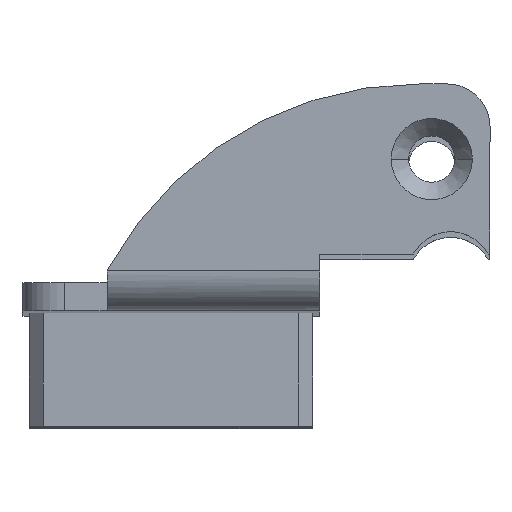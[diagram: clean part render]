
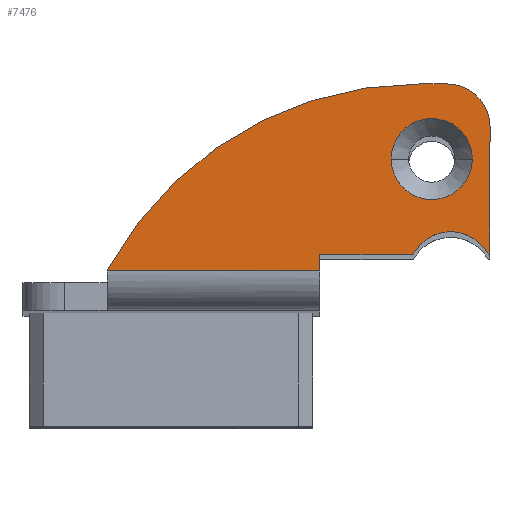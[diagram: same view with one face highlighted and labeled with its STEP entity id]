
A CAD part, top view. The second image highlights one B-rep face of the part: STEP entity #7476.
In plain terms, the highlighted planar face has unit normal (0, 0, 1).
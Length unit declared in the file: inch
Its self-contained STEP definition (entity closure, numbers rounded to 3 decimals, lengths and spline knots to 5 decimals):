
#26 = CARTESIAN_POINT ( 'NONE',  ( 0.7243, 0.34277, 4.49803 ) ) ;
#184 = EDGE_CURVE ( 'NONE', #6971, #6513, #2757, .T. ) ;
#376 = VERTEX_POINT ( 'NONE', #4253 ) ;
#433 = VERTEX_POINT ( 'NONE', #5571 ) ;
#598 = CIRCLE ( 'NONE', #5292, 0.1125 ) ;
#725 = LINE ( 'NONE', #1945, #3292 ) ;
#857 = ORIENTED_EDGE ( 'NONE', *, *, #5976, .T. ) ;
#920 = CARTESIAN_POINT ( 'NONE',  ( 0., 0.07874, 4.49803 ) ) ;
#1085 = EDGE_LOOP ( 'NONE', ( #1209, #3649, #2348, #7969, #6134, #3584, #7091, #857, #4544, #4623 ) ) ;
#1209 = ORIENTED_EDGE ( 'NONE', *, *, #6165, .T. ) ;
#1235 = DIRECTION ( 'NONE',  ( -1., 0., 0. ) ) ;
#1494 = CIRCLE ( 'NONE', #4665, 0.98411 ) ;
#1506 = CARTESIAN_POINT ( 'NONE',  ( 0.41339, 0.032, 4.49803 ) ) ;
#1619 = VERTEX_POINT ( 'NONE', #3954 ) ;
#1696 = DIRECTION ( 'NONE',  ( 1., 0., 0. ) ) ;
#1713 = CARTESIAN_POINT ( 'NONE',  ( 0.6727, 0.07874, 4.49803 ) ) ;
#1729 = CARTESIAN_POINT ( 'NONE',  ( 0.77666, 0.02269, 4.49803 ) ) ;
#1785 = CARTESIAN_POINT ( 'NONE',  ( -0.17588, 0.032, 4.49803 ) ) ;
#1786 = VECTOR ( 'NONE', #5189, 39.37008 ) ;
#1898 = CARTESIAN_POINT ( 'NONE',  ( 0., 0.55118, 4.49803 ) ) ;
#1945 = CARTESIAN_POINT ( 'NONE',  ( 0.88583, 0., 4.49803 ) ) ;
#2318 = VERTEX_POINT ( 'NONE', #4827 ) ;
#2348 = ORIENTED_EDGE ( 'NONE', *, *, #7915, .T. ) ;
#2372 = EDGE_CURVE ( 'NONE', #433, #4497, #598, .T. ) ;
#2394 = DIRECTION ( 'NONE',  ( 1., 0., 0. ) ) ;
#2466 = EDGE_CURVE ( 'NONE', #4497, #433, #3353, .T. ) ;
#2521 = EDGE_CURVE ( 'NONE', #2318, #6660, #7708, .T. ) ;
#2657 = ORIENTED_EDGE ( 'NONE', *, *, #2466, .F. ) ;
#2680 = EDGE_CURVE ( 'NONE', #2748, #1619, #2690, .T. ) ;
#2690 = LINE ( 'NONE', #4981, #6063 ) ;
#2694 = CARTESIAN_POINT ( 'NONE',  ( -0.1378, 0.02201, 4.49803 ) ) ;
#2748 = VERTEX_POINT ( 'NONE', #1506 ) ;
#2757 = CIRCLE ( 'NONE', #2891, 0.03937 ) ;
#2842 = CARTESIAN_POINT ( 'NONE',  ( -0.1723, 0.04096, 4.49803 ) ) ;
#2891 = AXIS2_PLACEMENT_3D ( 'NONE', #2694, #4097, #4041 ) ;
#2898 = CARTESIAN_POINT ( 'NONE',  ( 0.41339, 0.032, 4.49803 ) ) ;
#2937 = CARTESIAN_POINT ( 'NONE',  ( 0.88583, 0.07874, 4.49803 ) ) ;
#2943 = DIRECTION ( 'NONE',  ( 0., 0., 1. ) ) ;
#3081 = LINE ( 'NONE', #1898, #7238 ) ;
#3292 = VECTOR ( 'NONE', #6829, 39.37008 ) ;
#3311 = CARTESIAN_POINT ( 'NONE',  ( 0.69019, 0.55118, 4.49803 ) ) ;
#3353 = CIRCLE ( 'NONE', #6984, 0.1125 ) ;
#3584 = ORIENTED_EDGE ( 'NONE', *, *, #4074, .T. ) ;
#3649 = ORIENTED_EDGE ( 'NONE', *, *, #184, .T. ) ;
#3651 = FACE_OUTER_BOUND ( 'NONE', #1085, .T. ) ;
#3686 = VECTOR ( 'NONE', #2394, 39.37008 ) ;
#3714 = DIRECTION ( 'NONE',  ( -1., 0., 0. ) ) ;
#3801 = PLANE ( 'NONE',  #7518 ) ;
#3831 = DIRECTION ( 'NONE',  ( 0., 0., 1. ) ) ;
#3939 = AXIS2_PLACEMENT_3D ( 'NONE', #5549, #5495, #1235 ) ;
#3954 = CARTESIAN_POINT ( 'NONE',  ( 0.41339, 0.07874, 4.49803 ) ) ;
#4041 = DIRECTION ( 'NONE',  ( -1., 0., 0. ) ) ;
#4074 = EDGE_CURVE ( 'NONE', #5879, #376, #7015, .T. ) ;
#4097 = DIRECTION ( 'NONE',  ( 0., 0., 1. ) ) ;
#4100 = ORIENTED_EDGE ( 'NONE', *, *, #2372, .F. ) ;
#4247 = AXIS2_PLACEMENT_3D ( 'NONE', #1729, #7888, #3714 ) ;
#4253 = CARTESIAN_POINT ( 'NONE',  ( 0.88063, 0.07874, 4.49803 ) ) ;
#4323 = DIRECTION ( 'NONE',  ( 0., 0., 1. ) ) ;
#4372 = DIRECTION ( 'NONE',  ( 0., 1., 0. ) ) ;
#4497 = VERTEX_POINT ( 'NONE', #6238 ) ;
#4544 = ORIENTED_EDGE ( 'NONE', *, *, #2521, .T. ) ;
#4595 = VERTEX_POINT ( 'NONE', #3311 ) ;
#4623 = ORIENTED_EDGE ( 'NONE', *, *, #7213, .T. ) ;
#4665 = AXIS2_PLACEMENT_3D ( 'NONE', #7534, #3831, #6982 ) ;
#4827 = CARTESIAN_POINT ( 'NONE',  ( 0.88583, 0.43307, 4.49803 ) ) ;
#4892 = CARTESIAN_POINT ( 'NONE',  ( 0., 0.07874, 4.49803 ) ) ;
#4981 = CARTESIAN_POINT ( 'NONE',  ( 0.41339, 0., 4.49803 ) ) ;
#5042 = EDGE_CURVE ( 'NONE', #376, #6610, #6393, .T. ) ;
#5094 = EDGE_LOOP ( 'NONE', ( #4100, #2657 ) ) ;
#5189 = DIRECTION ( 'NONE',  ( 1., 0., 0. ) ) ;
#5292 = AXIS2_PLACEMENT_3D ( 'NONE', #6147, #2943, #7912 ) ;
#5495 = DIRECTION ( 'NONE',  ( 0., 0., 1. ) ) ;
#5549 = CARTESIAN_POINT ( 'NONE',  ( 0.76772, 0.43307, 4.49803 ) ) ;
#5557 = DIRECTION ( 'NONE',  ( 1., 0., 0. ) ) ;
#5571 = CARTESIAN_POINT ( 'NONE',  ( 0.8368, 0.34277, 4.49803 ) ) ;
#5626 = LINE ( 'NONE', #2898, #7457 ) ;
#5791 = FACE_BOUND ( 'NONE', #5094, .T. ) ;
#5879 = VERTEX_POINT ( 'NONE', #1713 ) ;
#5976 = EDGE_CURVE ( 'NONE', #6610, #2318, #725, .T. ) ;
#6063 = VECTOR ( 'NONE', #4372, 39.37008 ) ;
#6134 = ORIENTED_EDGE ( 'NONE', *, *, #6287, .T. ) ;
#6147 = CARTESIAN_POINT ( 'NONE',  ( 0.7243, 0.34277, 4.49803 ) ) ;
#6165 = EDGE_CURVE ( 'NONE', #4595, #6971, #1494, .T. ) ;
#6238 = CARTESIAN_POINT ( 'NONE',  ( 0.6118, 0.34277, 4.49803 ) ) ;
#6287 = EDGE_CURVE ( 'NONE', #1619, #5879, #6672, .T. ) ;
#6393 = LINE ( 'NONE', #4892, #3686 ) ;
#6513 = VERTEX_POINT ( 'NONE', #1785 ) ;
#6610 = VERTEX_POINT ( 'NONE', #2937 ) ;
#6660 = VERTEX_POINT ( 'NONE', #6728 ) ;
#6672 = LINE ( 'NONE', #920, #1786 ) ;
#6728 = CARTESIAN_POINT ( 'NONE',  ( 0.76772, 0.55118, 4.49803 ) ) ;
#6829 = DIRECTION ( 'NONE',  ( 0., 1., 0. ) ) ;
#6841 = DIRECTION ( 'NONE',  ( 0., 0., -1. ) ) ;
#6899 = CARTESIAN_POINT ( 'NONE',  ( 0., 0., 4.49803 ) ) ;
#6949 = DIRECTION ( 'NONE',  ( -1., 0., 0. ) ) ;
#6971 = VERTEX_POINT ( 'NONE', #2842 ) ;
#6982 = DIRECTION ( 'NONE',  ( 1., 0., 0. ) ) ;
#6984 = AXIS2_PLACEMENT_3D ( 'NONE', #26, #4323, #5557 ) ;
#7015 = CIRCLE ( 'NONE', #4247, 0.11811 ) ;
#7091 = ORIENTED_EDGE ( 'NONE', *, *, #5042, .T. ) ;
#7213 = EDGE_CURVE ( 'NONE', #6660, #4595, #3081, .T. ) ;
#7238 = VECTOR ( 'NONE', #7403, 39.37008 ) ;
#7403 = DIRECTION ( 'NONE',  ( -1., 0., 0. ) ) ;
#7457 = VECTOR ( 'NONE', #1696, 39.37008 ) ;
#7476 = ADVANCED_FACE ( 'NONE', ( #3651, #5791 ), #3801, .F. ) ;
#7518 = AXIS2_PLACEMENT_3D ( 'NONE', #6899, #6841, #6949 ) ;
#7534 = CARTESIAN_POINT ( 'NONE',  ( 0.69019, -0.43293, 4.49803 ) ) ;
#7708 = CIRCLE ( 'NONE', #3939, 0.11811 ) ;
#7888 = DIRECTION ( 'NONE',  ( 0., 0., -1. ) ) ;
#7912 = DIRECTION ( 'NONE',  ( 1., 0., 0. ) ) ;
#7915 = EDGE_CURVE ( 'NONE', #6513, #2748, #5626, .T. ) ;
#7969 = ORIENTED_EDGE ( 'NONE', *, *, #2680, .T. ) ;
